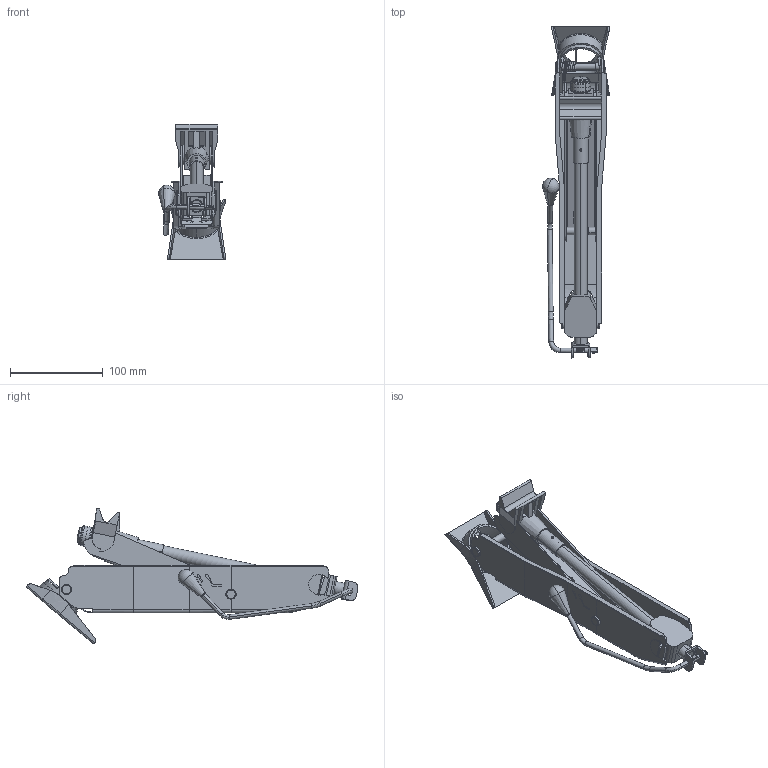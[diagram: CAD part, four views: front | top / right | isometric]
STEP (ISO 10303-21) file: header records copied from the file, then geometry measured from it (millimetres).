
FILE_DESCRIPTION(('CATIA V5 STEP'),'2;1');
FILE_NAME('H:\r16\KINEMATICS.stp','2014-04-22T20:13:12+00:00',('none'),('none'),'CATIA Version 5 Release 19 GA (IN-10)','CATIA V5 STEP AP203','none');
FILE_SCHEMA(('CONFIG_CONTROL_DESIGN'));
Length unit declared in the file: millimetre
Products named in the file (3): FITTING; VARILLA; CONJUNTO TEFLON
Assembly tree (17 placements, depth 3):
  FITTING
    #56
    #2102
    #4148
    #4566
    #4984
    #5858
    #8581
    #11762
    #13087
    VARILLA
      #14575
      #15585
    #16014
    #17060
    CONJUNTO TEFLON
      #21975
      #24554
Bounding box: 72 x 357.24 x 146.26 mm (x, y, z)
Volume: 239955.5 mm3; surface area: 183304 mm2
Topology: 18 solids, 18 shells, 742 faces, 1945 edges, 1238 vertices
Faces by surface type: plane 315, cylinder 255, extrusion 47, cone 42, bspline 34, torus 33, revolution 14, sphere 2
Entity records: 25979 total; most frequent: CARTESIAN_POINT 9141, ORIENTED_EDGE 3858, DIRECTION 2569, EDGE_CURVE 1929, VERTEX_POINT 1238, AXIS2_PLACEMENT_3D 1043, VECTOR 1031, LINE 984
